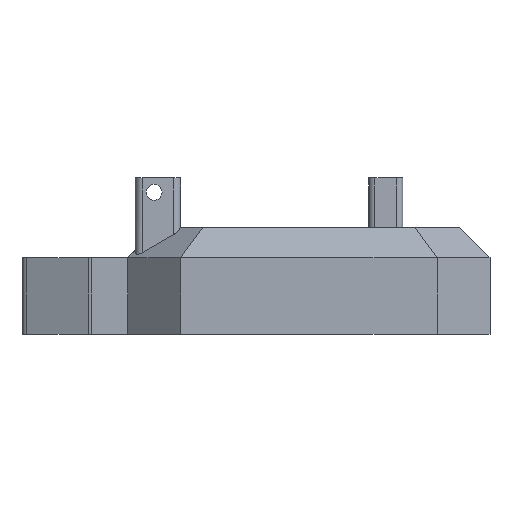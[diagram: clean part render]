
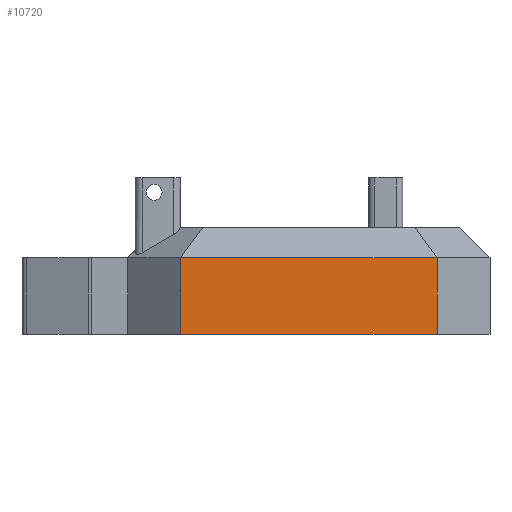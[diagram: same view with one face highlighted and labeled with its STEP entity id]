
A CAD part, left-side view. The second image highlights one B-rep face of the part: STEP entity #10720.
In plain terms, the highlighted planar face has unit normal (-1, 0, 0).
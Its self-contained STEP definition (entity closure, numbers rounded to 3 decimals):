
#44 = PLANE('',#45);
#45 = AXIS2_PLACEMENT_3D('',#46,#47,#48);
#46 = CARTESIAN_POINT('',(0.,0.,2.4));
#47 = DIRECTION('',(0.,0.,1.));
#48 = DIRECTION('',(1.,0.,-0.));
#72 = PLANE('',#73);
#73 = AXIS2_PLACEMENT_3D('',#74,#75,#76);
#74 = CARTESIAN_POINT('',(-27.,-17.,2.4));
#75 = DIRECTION('',(0.707,0.707,-0.));
#76 = DIRECTION('',(0.707,-0.707,0.));
#8164 = B_SPLINE_SURFACE_WITH_KNOTS('',1,1,(
    (#8165,#8166)
    ,(#8167,#8168
    )),.UNSPECIFIED.,.F.,.F.,.F.,(2,2),(2,2),(0.,34.),(0.,1.),
  .PIECEWISE_BEZIER_KNOTS.);
#8165 = CARTESIAN_POINT('',(-27.,17.,12.5));
#8166 = CARTESIAN_POINT('',(-23.,14.037,16.5));
#8167 = CARTESIAN_POINT('',(-27.,-17.,12.5));
#8168 = CARTESIAN_POINT('',(-23.,-14.037,16.5));
#10236 = VERTEX_POINT('',#10237);
#10237 = CARTESIAN_POINT('',(-27.,17.,12.5));
#10250 = PLANE('',#10251);
#10251 = AXIS2_PLACEMENT_3D('',#10252,#10253,#10254);
#10252 = CARTESIAN_POINT('',(-20.,24.,2.4));
#10253 = DIRECTION('',(0.707,-0.707,0.));
#10254 = DIRECTION('',(-0.707,-0.707,0.));
#10672 = EDGE_CURVE('',#10673,#10236,#10675,.T.);
#10673 = VERTEX_POINT('',#10674);
#10674 = CARTESIAN_POINT('',(-27.,17.,2.4));
#10675 = SURFACE_CURVE('',#10676,(#10680,#10687),.PCURVE_S1.);
#10676 = LINE('',#10677,#10678);
#10677 = CARTESIAN_POINT('',(-27.,17.,2.4));
#10678 = VECTOR('',#10679,1.);
#10679 = DIRECTION('',(0.,0.,1.));
#10680 = PCURVE('',#10250,#10681);
#10681 = DEFINITIONAL_REPRESENTATION('',(#10682),#10686);
#10682 = LINE('',#10683,#10684);
#10683 = CARTESIAN_POINT('',(9.899,0.));
#10684 = VECTOR('',#10685,1.);
#10685 = DIRECTION('',(0.,-1.));
#10686 = ( GEOMETRIC_REPRESENTATION_CONTEXT(2) 
PARAMETRIC_REPRESENTATION_CONTEXT() REPRESENTATION_CONTEXT('2D SPACE',''
  ) );
#10687 = PCURVE('',#10688,#10693);
#10688 = PLANE('',#10689);
#10689 = AXIS2_PLACEMENT_3D('',#10690,#10691,#10692);
#10690 = CARTESIAN_POINT('',(-27.,17.,2.4));
#10691 = DIRECTION('',(1.,0.,-0.));
#10692 = DIRECTION('',(0.,-1.,0.));
#10693 = DEFINITIONAL_REPRESENTATION('',(#10694),#10698);
#10694 = LINE('',#10695,#10696);
#10695 = CARTESIAN_POINT('',(0.,0.));
#10696 = VECTOR('',#10697,1.);
#10697 = DIRECTION('',(0.,-1.));
#10698 = ( GEOMETRIC_REPRESENTATION_CONTEXT(2) 
PARAMETRIC_REPRESENTATION_CONTEXT() REPRESENTATION_CONTEXT('2D SPACE',''
  ) );
#10720 = ADVANCED_FACE('',(#10721),#10688,.F.);
#10721 = FACE_BOUND('',#10722,.F.);
#10722 = EDGE_LOOP('',(#10723,#10724,#10746,#10769));
#10723 = ORIENTED_EDGE('',*,*,#10672,.T.);
#10724 = ORIENTED_EDGE('',*,*,#10725,.T.);
#10725 = EDGE_CURVE('',#10236,#10726,#10728,.T.);
#10726 = VERTEX_POINT('',#10727);
#10727 = CARTESIAN_POINT('',(-27.,-17.,12.5));
#10728 = SURFACE_CURVE('',#10729,(#10733,#10740),.PCURVE_S1.);
#10729 = LINE('',#10730,#10731);
#10730 = CARTESIAN_POINT('',(-27.,17.,12.5));
#10731 = VECTOR('',#10732,1.);
#10732 = DIRECTION('',(0.,-1.,0.));
#10733 = PCURVE('',#10688,#10734);
#10734 = DEFINITIONAL_REPRESENTATION('',(#10735),#10739);
#10735 = LINE('',#10736,#10737);
#10736 = CARTESIAN_POINT('',(0.,-10.1));
#10737 = VECTOR('',#10738,1.);
#10738 = DIRECTION('',(1.,0.));
#10739 = ( GEOMETRIC_REPRESENTATION_CONTEXT(2) 
PARAMETRIC_REPRESENTATION_CONTEXT() REPRESENTATION_CONTEXT('2D SPACE',''
  ) );
#10740 = PCURVE('',#8164,#10741);
#10741 = DEFINITIONAL_REPRESENTATION('',(#10742),#10745);
#10742 = B_SPLINE_CURVE_WITH_KNOTS('',1,(#10743,#10744),.UNSPECIFIED.,
  .F.,.F.,(2,2),(0.,34.),.PIECEWISE_BEZIER_KNOTS.);
#10743 = CARTESIAN_POINT('',(0.,0.));
#10744 = CARTESIAN_POINT('',(34.,0.));
#10745 = ( GEOMETRIC_REPRESENTATION_CONTEXT(2) 
PARAMETRIC_REPRESENTATION_CONTEXT() REPRESENTATION_CONTEXT('2D SPACE',''
  ) );
#10746 = ORIENTED_EDGE('',*,*,#10747,.F.);
#10747 = EDGE_CURVE('',#10748,#10726,#10750,.T.);
#10748 = VERTEX_POINT('',#10749);
#10749 = CARTESIAN_POINT('',(-27.,-17.,2.4));
#10750 = SURFACE_CURVE('',#10751,(#10755,#10762),.PCURVE_S1.);
#10751 = LINE('',#10752,#10753);
#10752 = CARTESIAN_POINT('',(-27.,-17.,2.4));
#10753 = VECTOR('',#10754,1.);
#10754 = DIRECTION('',(0.,0.,1.));
#10755 = PCURVE('',#10688,#10756);
#10756 = DEFINITIONAL_REPRESENTATION('',(#10757),#10761);
#10757 = LINE('',#10758,#10759);
#10758 = CARTESIAN_POINT('',(34.,0.));
#10759 = VECTOR('',#10760,1.);
#10760 = DIRECTION('',(0.,-1.));
#10761 = ( GEOMETRIC_REPRESENTATION_CONTEXT(2) 
PARAMETRIC_REPRESENTATION_CONTEXT() REPRESENTATION_CONTEXT('2D SPACE',''
  ) );
#10762 = PCURVE('',#72,#10763);
#10763 = DEFINITIONAL_REPRESENTATION('',(#10764),#10768);
#10764 = LINE('',#10765,#10766);
#10765 = CARTESIAN_POINT('',(0.,0.));
#10766 = VECTOR('',#10767,1.);
#10767 = DIRECTION('',(0.,-1.));
#10768 = ( GEOMETRIC_REPRESENTATION_CONTEXT(2) 
PARAMETRIC_REPRESENTATION_CONTEXT() REPRESENTATION_CONTEXT('2D SPACE',''
  ) );
#10769 = ORIENTED_EDGE('',*,*,#10770,.F.);
#10770 = EDGE_CURVE('',#10673,#10748,#10771,.T.);
#10771 = SURFACE_CURVE('',#10772,(#10776,#10783),.PCURVE_S1.);
#10772 = LINE('',#10773,#10774);
#10773 = CARTESIAN_POINT('',(-27.,17.,2.4));
#10774 = VECTOR('',#10775,1.);
#10775 = DIRECTION('',(0.,-1.,0.));
#10776 = PCURVE('',#10688,#10777);
#10777 = DEFINITIONAL_REPRESENTATION('',(#10778),#10782);
#10778 = LINE('',#10779,#10780);
#10779 = CARTESIAN_POINT('',(0.,0.));
#10780 = VECTOR('',#10781,1.);
#10781 = DIRECTION('',(1.,0.));
#10782 = ( GEOMETRIC_REPRESENTATION_CONTEXT(2) 
PARAMETRIC_REPRESENTATION_CONTEXT() REPRESENTATION_CONTEXT('2D SPACE',''
  ) );
#10783 = PCURVE('',#44,#10784);
#10784 = DEFINITIONAL_REPRESENTATION('',(#10785),#10789);
#10785 = LINE('',#10786,#10787);
#10786 = CARTESIAN_POINT('',(-27.,17.));
#10787 = VECTOR('',#10788,1.);
#10788 = DIRECTION('',(0.,-1.));
#10789 = ( GEOMETRIC_REPRESENTATION_CONTEXT(2) 
PARAMETRIC_REPRESENTATION_CONTEXT() REPRESENTATION_CONTEXT('2D SPACE',''
  ) );
